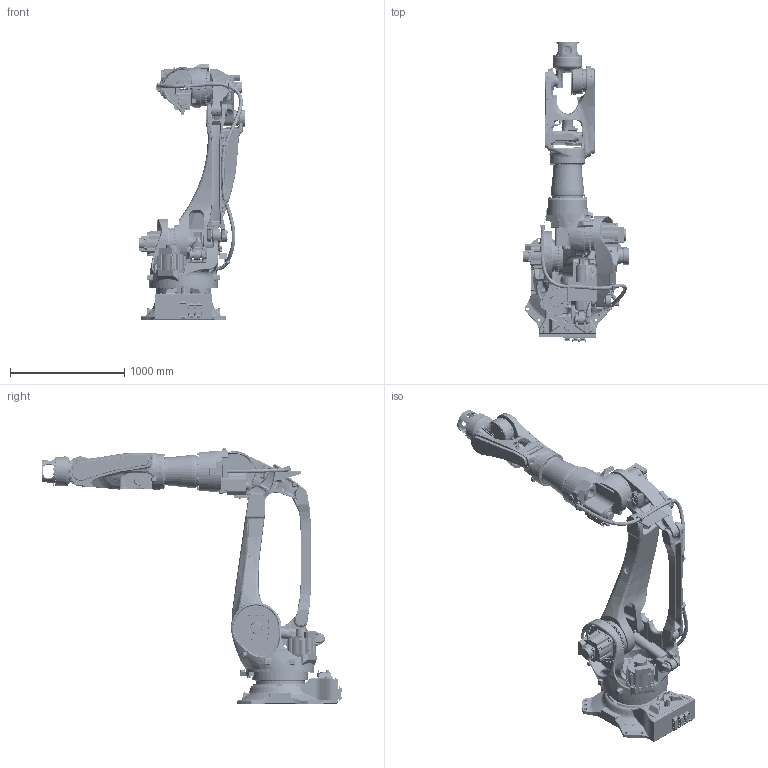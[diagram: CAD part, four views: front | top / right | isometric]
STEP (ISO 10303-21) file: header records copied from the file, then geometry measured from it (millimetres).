
FILE_DESCRIPTION(('CATIA V5 STEP Exchange'),'2;1');
FILE_NAME('D:\モデリング\☆☆☆STEP\BX\BX300\BX300L-B0001_200721\軽量化\Part\Part\BX250L-B001(BX300Lから名称変更)\BX250L-B001.stp','2020-08-04T07:31:59+00:00',('none'),('none'),'CATIA Version 5-6 Release 2016 SP6 HF14','CATIA V5 STEP AP203','none');
FILE_SCHEMA(('CONFIG_CONTROL_DESIGN'));
Products named in the file (1): BX250L-B001
Assembly tree (12 placements, depth 2):
  BX250L-B001
    #57
    #57910
    #195108
    #253514
    #308625
    #432175
    #462252
    #488259
    #553894
    #581174
    #595167
    #602108
Bounding box: 937.05 x 2631.76 x 2247.05 mm (x, y, z)
Volume: 306897919.3 mm3; surface area: 15586783 mm2
Topology: 33 solids, 33 shells, 12817 faces, 31792 edges, 19184 vertices
Faces by surface type: cylinder 4341, plane 3356, bspline 2896, cone 925, torus 888, sphere 182, revolution 158, extrusion 71
Entity records: 604865 total; most frequent: CARTESIAN_POINT 343770, ORIENTED_EDGE 62366, DIRECTION 36360, EDGE_CURVE 31183, VERTEX_POINT 19184, AXIS2_PLACEMENT_3D 18270, EDGE_LOOP 14045, ADVANCED_FACE 12817
